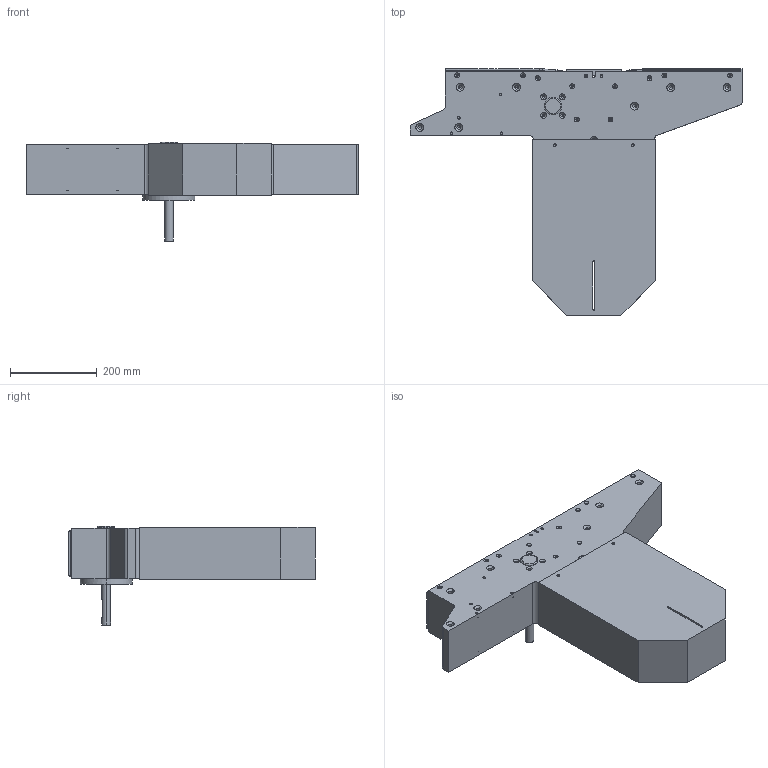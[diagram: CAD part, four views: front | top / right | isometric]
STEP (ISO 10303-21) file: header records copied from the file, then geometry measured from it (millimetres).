
FILE_DESCRIPTION (( 'STEP AP214' ), '1' );
FILE_NAME ('FCCD DD 0L.step', '2017-04-07T11:05:55', ( '' ), ( '' ), 'SwSTEP 2.0', 'SolidWorks 2016', '' );
FILE_SCHEMA (( 'AUTOMOTIVE_DESIGN' ));
Length unit declared in the file: millimetre
Products named in the file (1): FCCD DD 0L
Bounding box: 766.45 x 569.47 x 229.3 mm (x, y, z)
Volume: 25188282.5 mm3; surface area: 877867 mm2
Topology: 1 solids, 1 shells, 489 faces, 1143 edges, 651 vertices
Faces by surface type: cylinder 189, cone 182, plane 97, bspline 17, torus 4
Entity records: 15431 total; most frequent: CARTESIAN_POINT 3241, DIRECTION 2433, ORIENTED_EDGE 2114, EDGE_CURVE 1057, AXIS2_PLACEMENT_3D 953, VERTEX_POINT 651, EDGE_LOOP 574, LINE 527
